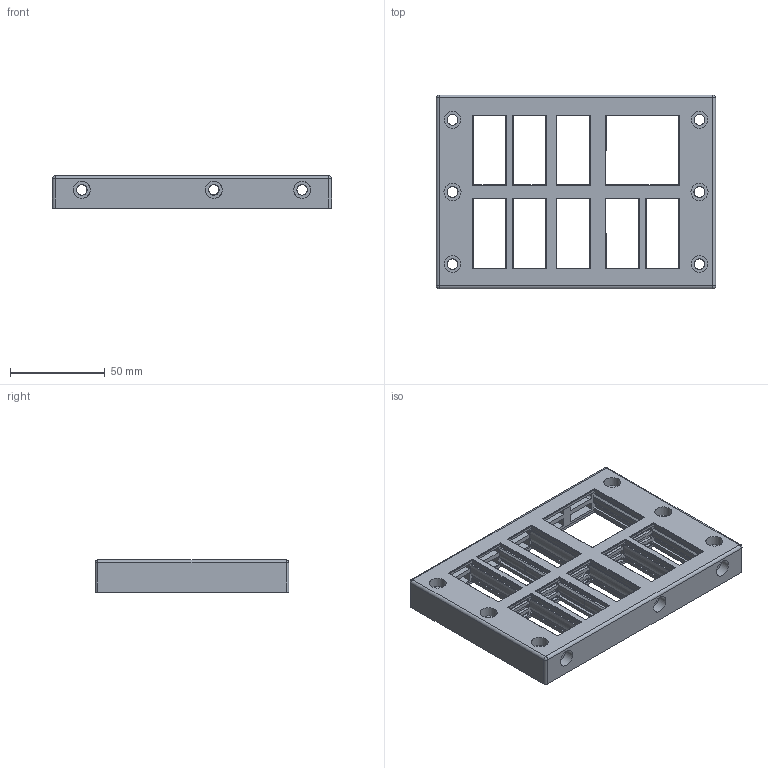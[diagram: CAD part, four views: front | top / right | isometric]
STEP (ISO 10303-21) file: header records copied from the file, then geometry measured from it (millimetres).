
FILE_DESCRIPTION (( 'STEP AP203' ), '1' );
FILE_NAME ('042224 KBL 24-17-MT.STEP', '2023-04-13T03:12:11', ( '' ), ( '' ), 'SwSTEP 2.0', 'SolidWorks 2016', '' );
FILE_SCHEMA (( 'CONFIG_CONTROL_DESIGN' ));
Length unit declared in the file: millimetre
Products named in the file (1): 042224 KBL 24-17-MT
Bounding box: 147 x 102 x 17 mm (x, y, z)
Volume: 93884.1 mm3; surface area: 67751.4 mm2
Topology: 1 solids, 10 shells, 1205 faces, 3300 edges, 2173 vertices
Faces by surface type: plane 864, cylinder 269, bspline 35, cone 27, sphere 5, torus 5
Full cylindrical faces by diameter (mm): 1.8 x5, 2 x5, 5.5 x7, 5.55 x4, 5.8 x2, 8.8 x4, 9 x5
Entity records: 45320 total; most frequent: CARTESIAN_POINT 16522, ORIENTED_EDGE 6492, DIRECTION 4865, EDGE_CURVE 3246, VECTOR 2337, LINE 2337, VERTEX_POINT 2160, EDGE_LOOP 1362
